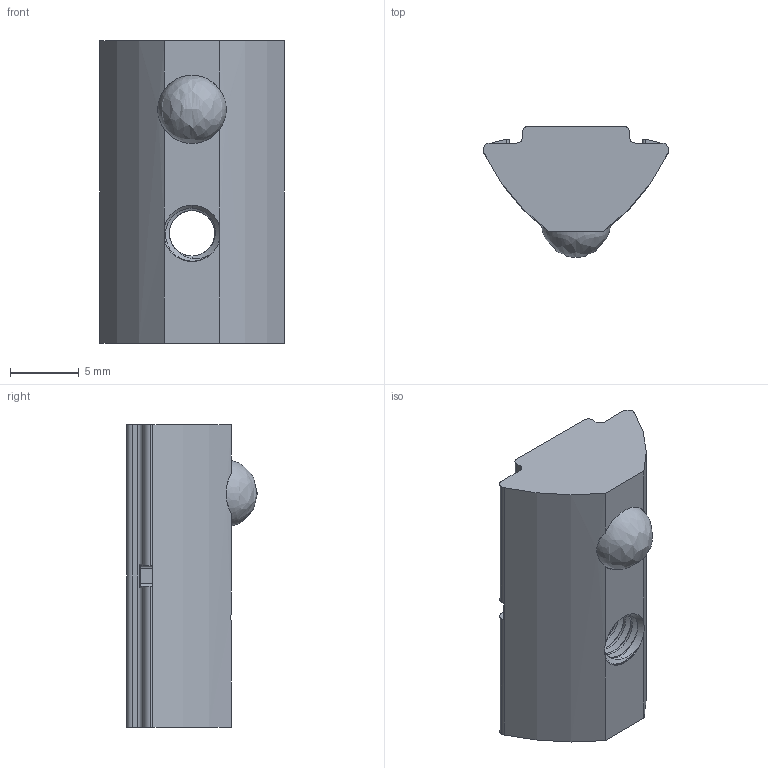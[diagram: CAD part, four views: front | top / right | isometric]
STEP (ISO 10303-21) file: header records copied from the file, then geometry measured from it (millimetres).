
FILE_DESCRIPTION (( 'STEP AP203' ), '1' );
FILE_NAME ('355022_Nutenstein 8 M4 einschwenkbar m. Kugel u. Steg m. ESD-Kerbe.step', '2022-11-24T09:08:25', ( '' ), ( '' ), 'SwSTEP 2.0', 'SolidWorks 2021', '' );
FILE_SCHEMA (( 'CONFIG_CONTROL_DESIGN' ));
Length unit declared in the file: millimetre
Products named in the file (1): 355022_Nutenstein 8 M4 einschwenkbar m. Kugel u. Steg m. ESD-Kerbe
Bounding box: 13.47 x 9.5 x 22 mm (x, y, z)
Volume: 1476.9 mm3; surface area: 1183.9 mm2
Topology: 1 solids, 2 shells, 96 faces, 264 edges, 171 vertices
Faces by surface type: cylinder 44, plane 35, cone 11, bspline 6
Entity records: 6074 total; most frequent: CARTESIAN_POINT 3690, ORIENTED_EDGE 528, DIRECTION 440, EDGE_CURVE 264, VERTEX_POINT 171, AXIS2_PLACEMENT_3D 157, VECTOR 126, LINE 126
